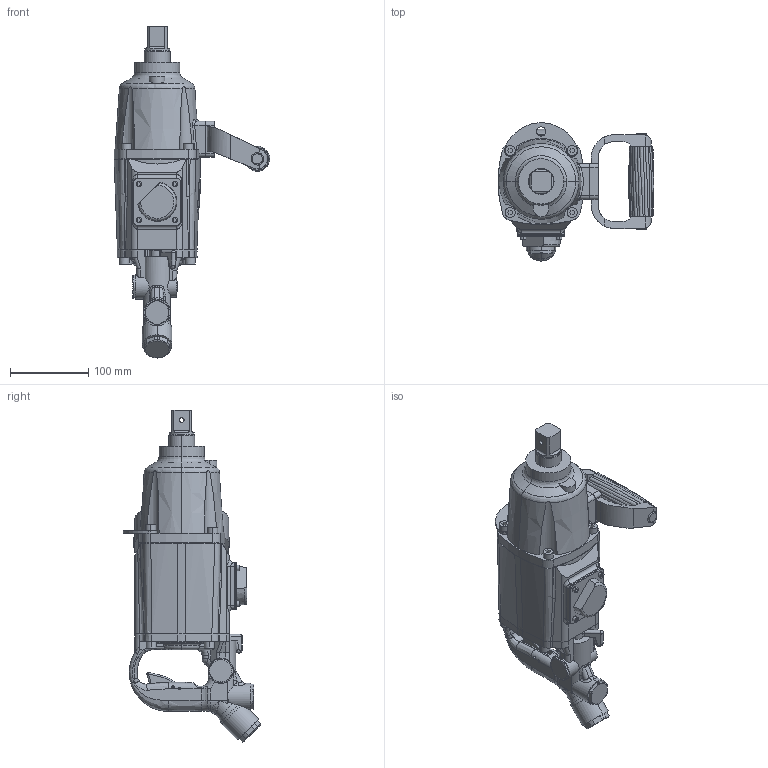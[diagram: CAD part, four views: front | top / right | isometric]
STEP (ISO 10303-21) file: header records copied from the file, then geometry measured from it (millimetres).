
FILE_DESCRIPTION (( 'STEP AP214' ), '1' );
FILE_NAME ('UXR-2400S(IN).STEP', '2006-09-06T06:07:52', ( '' ), ( '' ), 'SwSTEP 2.0', 'SolidWorks 2004073', '' );
FILE_SCHEMA (( 'AUTOMOTIVE_DESIGN' ));
Length unit declared in the file: millimetre
Products named in the file (7): 1763195_UXR-T2400S(OUT)_蹬怮椔; 1032120_UXR-T2400S(OUT)_蹬怮椔; 1760105_UXR-T2400S(IN)_蹬怮椔; 1760255_UXR-T2400S(OUT)_蹬怮椔; 1754395_UXR-T2400S(OUT)_蹬怮椔; UXR-2400S(IN); 0851071_蹬怮椔
Assembly tree (6 placements, depth 2):
  UXR-2400S(IN)
    1763195_UXR-T2400S(OUT)_蹬怮椔
    1754395_UXR-T2400S(OUT)_蹬怮椔
    0851071_蹬怮椔
    1760105_UXR-T2400S(IN)_蹬怮椔
    1032120_UXR-T2400S(OUT)_蹬怮椔
    1760255_UXR-T2400S(OUT)_蹬怮椔
Bounding box: 199.14 x 176.1 x 424.44 mm (x, y, z)
Volume: 2901419.2 mm3; surface area: 246488 mm2
Topology: 6 solids, 6 shells, 1010 faces, 2690 edges, 1739 vertices
Faces by surface type: plane 407, cylinder 306, bspline 218, torus 47, cone 24, sphere 8
Entity records: 80333 total; most frequent: CARTESIAN_POINT 52540, ORIENTED_EDGE 5352, DIRECTION 3951, EDGE_CURVE 2676, VERTEX_POINT 1736, AXIS2_PLACEMENT_3D 1408, VECTOR 1135, LINE 1135
